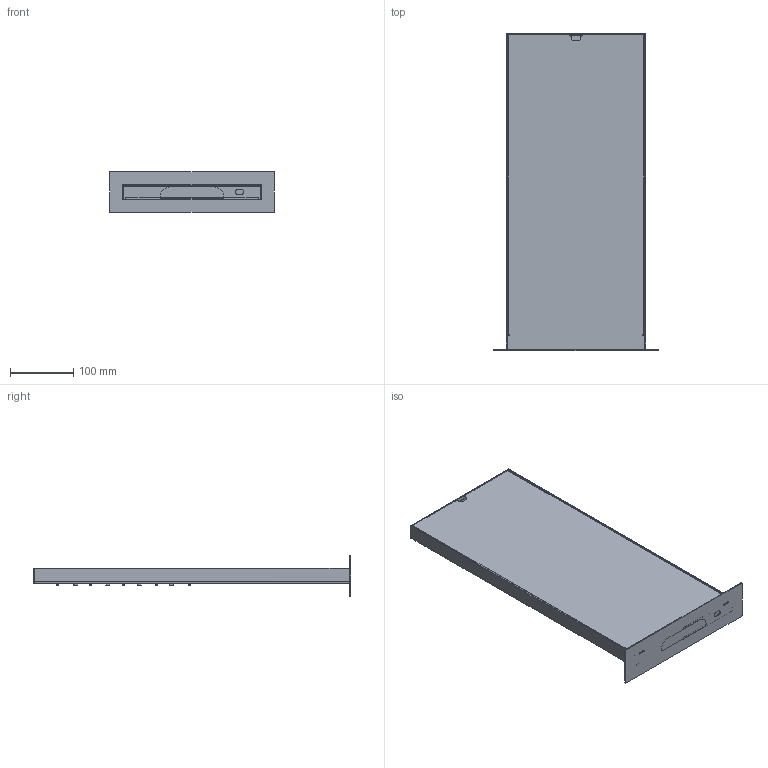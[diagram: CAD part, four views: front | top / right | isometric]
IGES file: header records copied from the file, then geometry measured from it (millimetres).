
Start section:  PTC IGES file: 90604.igs
Global section: file name: 90604.igs; native system: Creo Parametric by PTC Inc.; preprocessor: 2018100; author: carloff; organization: Unknown; date: 20210429.154505; units: millimetre
Bounding box: 260 x 500 x 64 mm (x, y, z)
Surface area: 605777.4 mm2 (no closed solid volume)
Topology: 0 solids, 0 shells, 1757 faces, 8062 edges, 7986 vertices
Faces by surface type: revolution 1213, bspline 544
